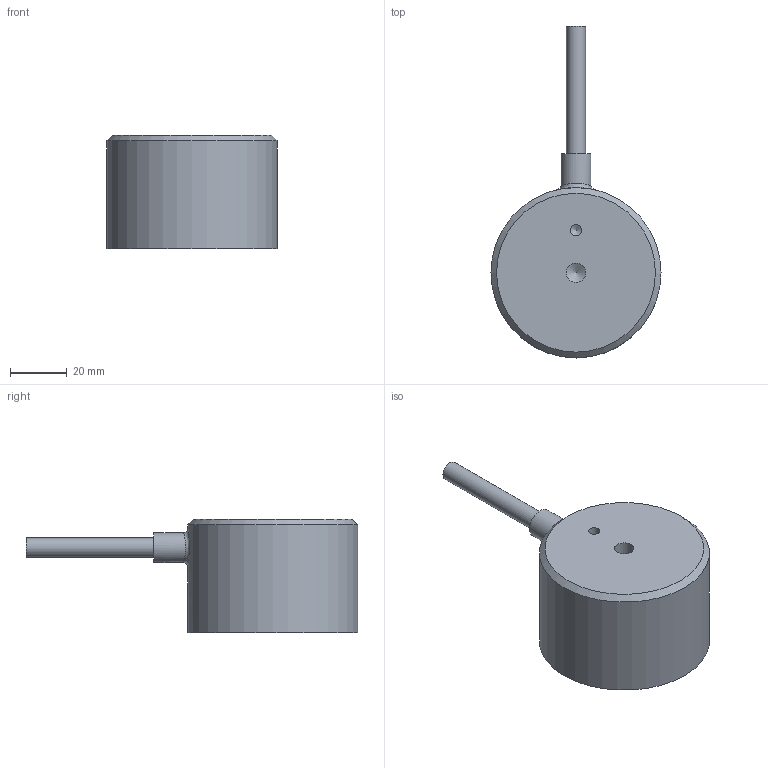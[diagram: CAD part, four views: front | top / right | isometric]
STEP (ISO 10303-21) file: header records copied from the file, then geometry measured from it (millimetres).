
FILE_DESCRIPTION(/* description */ (''),/* implementation_level */ '2;1');
FILE_NAME(/* name */ 'EMH-1-60Dx40H-S.step',/* time_stamp */ '2023-12-15T11:34:30+09:00',/* author */ (''),/* organization */ (''),/* preprocessor_version */ 'ST-DEVELOPER v20',/* originating_system */ 'Autodesk Translation Framework v12.14.0.127',/* authorisation */ '');
FILE_SCHEMA (('AUTOMOTIVE_DESIGN { 1 0 10303 214 3 1 1 }'));
Length unit declared in the file: millimetre
Products named in the file (3): EMH-1-60Dx40H-S; BODY; Cable
Assembly tree (2 placements, depth 2):
  EMH-1-60Dx40H-S
    BODY
    Cable
Bounding box: 60 x 117 x 40 mm (x, y, z)
Volume: 114620.4 mm3; surface area: 14698.7 mm2
Topology: 2 solids, 2 shells, 18 faces, 31 edges, 20 vertices
Faces by surface type: cylinder 7, plane 7, cone 3, bspline 1
Full cylindrical faces by diameter (mm): 4 x1, 6.779 x1, 6.8 x1, 10.5 x1, 25 x1, 55 x1, 60 x1
Entity records: 637 total; most frequent: CARTESIAN_POINT 177, DIRECTION 86, ORIENTED_EDGE 58, AXIS2_PLACEMENT_3D 38, EDGE_CURVE 29, EDGE_LOOP 23, VERTEX_POINT 20, FACE_OUTER_BOUND 18
